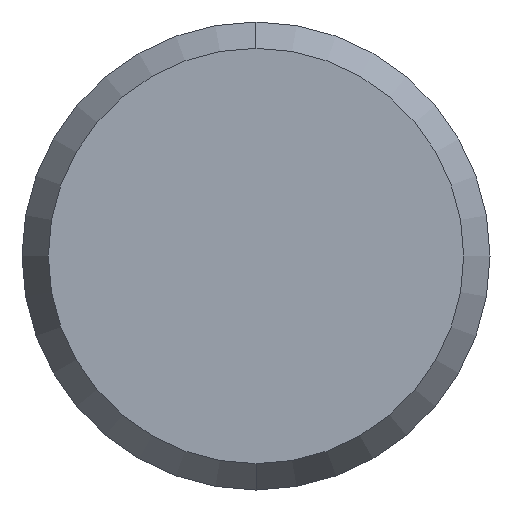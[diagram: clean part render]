
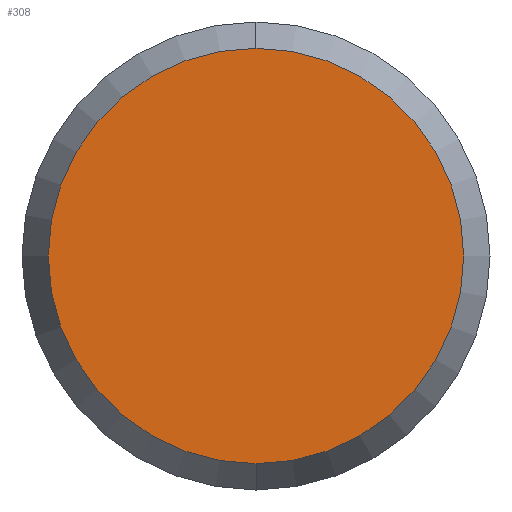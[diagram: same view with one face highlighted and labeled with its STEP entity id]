
A CAD part, left-side view. The second image highlights one B-rep face of the part: STEP entity #308.
In plain terms, the highlighted planar face has unit normal (-1, 0, 0).
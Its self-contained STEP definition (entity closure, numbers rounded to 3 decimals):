
#12 = DIRECTION ( 'NONE',  ( 0., 0., 1. ) ) ;
#33 = ORIENTED_EDGE ( 'NONE', *, *, #760, .T. ) ;
#34 = DIRECTION ( 'NONE',  ( -1., 0., 0. ) ) ;
#88 = CARTESIAN_POINT ( 'NONE',  ( 0., 0., 0. ) ) ;
#96 = DIRECTION ( 'NONE',  ( 0., 0., 1. ) ) ;
#103 = VERTEX_POINT ( 'NONE', #710 ) ;
#167 = CARTESIAN_POINT ( 'NONE',  ( 0., 0., -7.1 ) ) ;
#243 = DIRECTION ( 'NONE',  ( 1., 0., 0. ) ) ;
#259 = DIRECTION ( 'NONE',  ( -1., 0., 0. ) ) ;
#284 = EDGE_LOOP ( 'NONE', ( #33, #811 ) ) ;
#308 = ADVANCED_FACE ( 'NONE', ( #630 ), #368, .F. ) ;
#368 = PLANE ( 'NONE',  #376 ) ;
#376 = AXIS2_PLACEMENT_3D ( 'NONE', #562, #243, #492 ) ;
#459 = CIRCLE ( 'NONE', #548, 7.1 ) ;
#473 = VERTEX_POINT ( 'NONE', #167 ) ;
#492 = DIRECTION ( 'NONE',  ( 0., 0., -1. ) ) ;
#516 = AXIS2_PLACEMENT_3D ( 'NONE', #88, #34, #96 ) ;
#548 = AXIS2_PLACEMENT_3D ( 'NONE', #714, #259, #12 ) ;
#562 = CARTESIAN_POINT ( 'NONE',  ( 0., 0., 0. ) ) ;
#619 = CIRCLE ( 'NONE', #516, 7.1 ) ;
#630 = FACE_OUTER_BOUND ( 'NONE', #284, .T. ) ;
#710 = CARTESIAN_POINT ( 'NONE',  ( 0., 0., 7.1 ) ) ;
#714 = CARTESIAN_POINT ( 'NONE',  ( 0., 0., 0. ) ) ;
#760 = EDGE_CURVE ( 'NONE', #473, #103, #459, .T. ) ;
#811 = ORIENTED_EDGE ( 'NONE', *, *, #830, .T. ) ;
#830 = EDGE_CURVE ( 'NONE', #103, #473, #619, .T. ) ;
